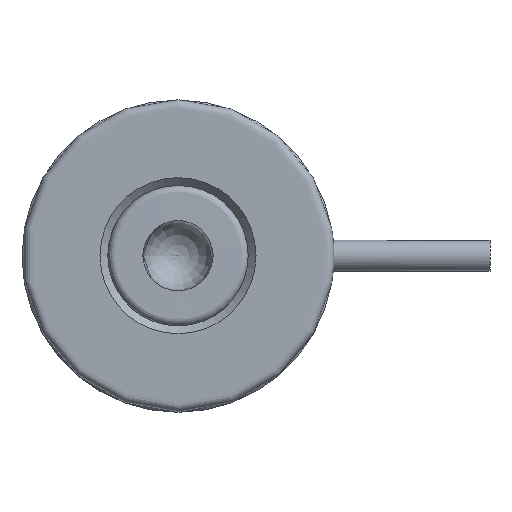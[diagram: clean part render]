
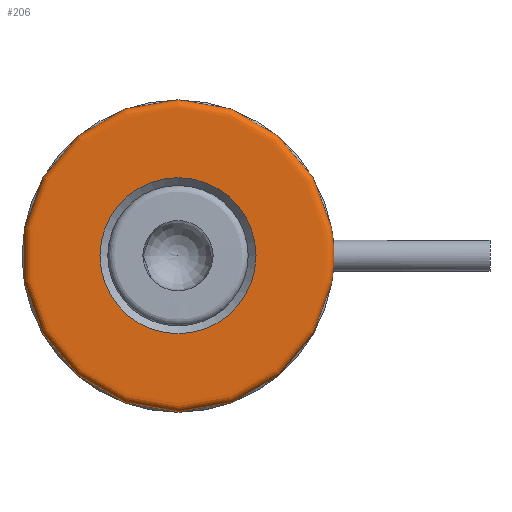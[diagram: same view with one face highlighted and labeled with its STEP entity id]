
A CAD part, top view. The second image highlights one B-rep face of the part: STEP entity #206.
In plain terms, the highlighted face is a revolution surface.
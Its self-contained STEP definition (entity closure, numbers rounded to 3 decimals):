
#206=ADVANCED_FACE('',(#487,#488,#489),#490,.F.);
#487=FACE_BOUND('',#847,.T.);
#488=FACE_OUTER_BOUND('',#848,.T.);
#489=FACE_OUTER_BOUND('',#849,.T.);
#490=SURFACE_OF_REVOLUTION('',#850,#851);
#847=EDGE_LOOP('',(#1484));
#848=EDGE_LOOP('',(#1485));
#849=EDGE_LOOP('',(#1486));
#850=(B_SPLINE_CURVE(3,(#1488,#1489,#1490,#1491,#1492,#1493,#1494,#1495,#1496,#1497,#1498,#1499,#1500,#1501,#1502,#1503),.UNSPECIFIED.,.F.,.F.)B_SPLINE_CURVE_WITH_KNOTS((4,3,3,3,3,4),(0.148,0.286,0.314,0.629,0.656,0.718),.UNSPECIFIED.)RATIONAL_B_SPLINE_CURVE((1.0,1.0,1.0,1.0,0.805,0.805,1.0,1.0,1.0,1.0,0.805,0.805,1.0,1.0,1.0,1.0))BOUNDED_CURVE()REPRESENTATION_ITEM('')GEOMETRIC_REPRESENTATION_ITEM()CURVE());
#851=AXIS1_PLACEMENT('',#1510,#1511);
#1484=ORIENTED_EDGE('',*,*,#1923,.T.);
#1485=ORIENTED_EDGE('',*,*,#1924,.F.);
#1486=ORIENTED_EDGE('',*,*,#1925,.T.);
#1488=CARTESIAN_POINT('',(-10.,0.0,30.));
#1489=CARTESIAN_POINT('',(-13.,0.0,30.));
#1490=CARTESIAN_POINT('',(-16.,0.0,30.));
#1491=CARTESIAN_POINT('',(-19.,0.0,30.));
#1492=CARTESIAN_POINT('',(-19.586,0.,30.));
#1493=CARTESIAN_POINT('',(-20.,0.,29.586));
#1494=CARTESIAN_POINT('',(-20.,0.0,29.));
#1495=CARTESIAN_POINT('',(-20.,0.0,22.167));
#1496=CARTESIAN_POINT('',(-20.,0.0,15.333));
#1497=CARTESIAN_POINT('',(-20.,0.0,8.5));
#1498=CARTESIAN_POINT('',(-20.,0.,7.914));
#1499=CARTESIAN_POINT('',(-19.586,0.,7.5));
#1500=CARTESIAN_POINT('',(-19.,0.0,7.5));
#1501=CARTESIAN_POINT('',(-17.667,0.0,7.5));
#1502=CARTESIAN_POINT('',(-16.333,0.0,7.5));
#1503=CARTESIAN_POINT('',(-15.,0.0,7.5));
#1510=CARTESIAN_POINT('',(0.0,0.0,30.));
#1511=DIRECTION('',(0.0,0.,1.0));
#1923=EDGE_CURVE('',#2139,#2139,#2140,.T.);
#1924=EDGE_CURVE('',#2141,#2141,#2142,.T.);
#1925=EDGE_CURVE('',#2143,#2143,#2144,.T.);
#2139=VERTEX_POINT('',#2393);
#2140=B_SPLINE_CURVE_WITH_KNOTS('',3,(#2394,#2395,#2396,#2397,#2398,#2399,#2400,#2401,#2402,#2403,#2404,#2405,#2406,#2407,#2408,#2409,#2410,#2411,#2412,#2413,#2414,#2415,#2416,#2417,#2418,#2419,#2420,#2421,#2422,#2423,#2424,#2425,#2426,#2427,#2428),.UNSPECIFIED.,.T.,.F.,(2,1,1,1,1,1,1,1,1,1,1,1,1,1,1,1,1,1,1,1,1,1,1,1,1,1,1,1,1,1,1,1,1,1,1,1,2),(-0.063,-0.032,0.0,0.032,0.063,0.095,0.126,0.157,0.188,0.219,0.25,0.281,0.312,0.343,0.374,0.405,0.437,0.468,0.5,0.532,0.563,0.595,0.626,0.657,0.688,0.719,0.75,0.781,0.812,0.843,0.874,0.905,0.937,0.968,1.0,1.032,1.063),.UNSPECIFIED.);
#2141=VERTEX_POINT('',#2429);
#2142=CIRCLE('',#2430,15.);
#2143=VERTEX_POINT('',#2431);
#2144=CIRCLE('',#2432,10.);
#2393=CARTESIAN_POINT('',(20.,0.,19.7));
#2394=CARTESIAN_POINT('',(19.992,0.704,19.745));
#2395=CARTESIAN_POINT('',(20.004,-0.001,19.677));
#2396=CARTESIAN_POINT('',(19.992,-0.706,19.745));
#2397=CARTESIAN_POINT('',(19.956,-1.384,19.946));
#2398=CARTESIAN_POINT('',(19.902,-2.008,20.272));
#2399=CARTESIAN_POINT('',(19.838,-2.554,20.709));
#2400=CARTESIAN_POINT('',(19.775,-3.003,21.241));
#2401=CARTESIAN_POINT('',(19.72,-3.337,21.849));
#2402=CARTESIAN_POINT('',(19.684,-3.543,22.511));
#2403=CARTESIAN_POINT('',(19.671,-3.613,23.2));
#2404=CARTESIAN_POINT('',(19.684,-3.543,23.889));
#2405=CARTESIAN_POINT('',(19.72,-3.337,24.551));
#2406=CARTESIAN_POINT('',(19.775,-3.002,25.159));
#2407=CARTESIAN_POINT('',(19.838,-2.553,25.692));
#2408=CARTESIAN_POINT('',(19.902,-2.008,26.129));
#2409=CARTESIAN_POINT('',(19.956,-1.383,26.454));
#2410=CARTESIAN_POINT('',(19.992,-0.704,26.655));
#2411=CARTESIAN_POINT('',(20.004,0.003,26.723));
#2412=CARTESIAN_POINT('',(19.991,0.709,26.654));
#2413=CARTESIAN_POINT('',(19.955,1.386,26.453));
#2414=CARTESIAN_POINT('',(19.902,2.01,26.127));
#2415=CARTESIAN_POINT('',(19.838,2.556,25.69));
#2416=CARTESIAN_POINT('',(19.774,3.004,25.157));
#2417=CARTESIAN_POINT('',(19.72,3.338,24.549));
#2418=CARTESIAN_POINT('',(19.684,3.544,23.887));
#2419=CARTESIAN_POINT('',(19.671,3.613,23.198));
#2420=CARTESIAN_POINT('',(19.684,3.543,22.509));
#2421=CARTESIAN_POINT('',(19.72,3.336,21.847));
#2422=CARTESIAN_POINT('',(19.775,3.001,21.239));
#2423=CARTESIAN_POINT('',(19.839,2.552,20.707));
#2424=CARTESIAN_POINT('',(19.902,2.006,20.27));
#2425=CARTESIAN_POINT('',(19.956,1.382,19.945));
#2426=CARTESIAN_POINT('',(19.992,0.704,19.745));
#2427=CARTESIAN_POINT('',(20.004,-0.001,19.677));
#2428=CARTESIAN_POINT('',(19.992,-0.706,19.745));
#2429=CARTESIAN_POINT('',(0.0,15.,7.5));
#2430=AXIS2_PLACEMENT_3D('',#2861,#2862,#2863);
#2431=CARTESIAN_POINT('',(0.0,10.,30.));
#2432=AXIS2_PLACEMENT_3D('',#2864,#2865,#2866);
#2861=CARTESIAN_POINT('',(0.0,0.0,7.5));
#2862=DIRECTION('',(-0.0,0.,-1.0));
#2863=DIRECTION('',(0.0,1.0,0.));
#2864=CARTESIAN_POINT('',(0.0,0.0,30.));
#2865=DIRECTION('',(-0.0,0.,-1.0));
#2866=DIRECTION('',(0.0,1.0,0.));
